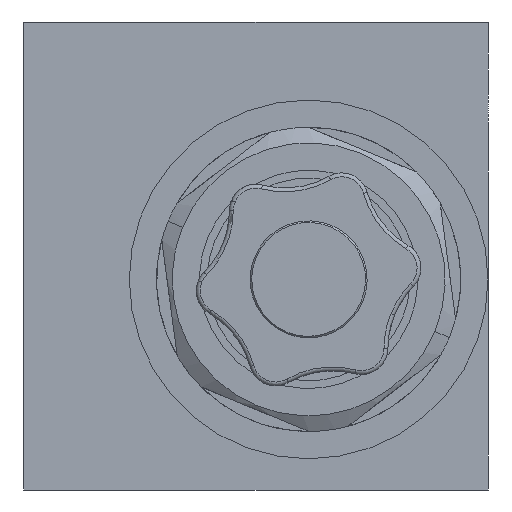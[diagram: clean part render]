
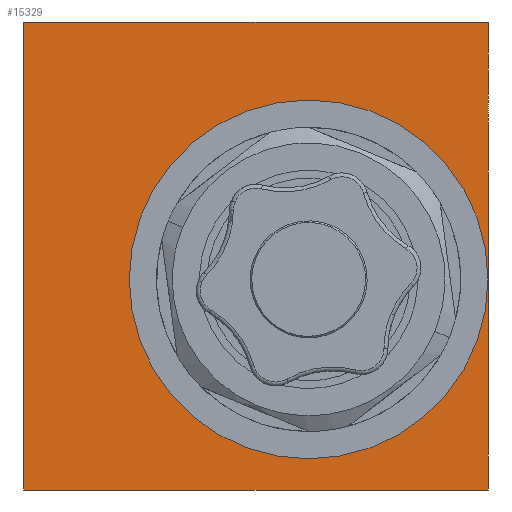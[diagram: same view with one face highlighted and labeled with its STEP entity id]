
A CAD part, left-side view. The second image highlights one B-rep face of the part: STEP entity #15329.
In plain terms, the highlighted planar face has unit normal (-1, 0, 0).
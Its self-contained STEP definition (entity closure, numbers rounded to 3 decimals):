
#46 = CIRCLE ( 'NONE', #3927, 23. ) ;
#91 = CARTESIAN_POINT ( 'NONE',  ( 0., -29.75, 30. ) ) ;
#113 = CARTESIAN_POINT ( 'NONE',  ( 0., -6.75, -26. ) ) ;
#355 = DIRECTION ( 'NONE',  ( 0., -1., 0. ) ) ;
#491 = DIRECTION ( 'NONE',  ( 0., 0., 1. ) ) ;
#1056 = EDGE_CURVE ( 'NONE', #6913, #8393, #15344, .T. ) ;
#1632 = EDGE_CURVE ( 'NONE', #10393, #6913, #13962, .T. ) ;
#1661 = VERTEX_POINT ( 'NONE', #113 ) ;
#2132 = EDGE_LOOP ( 'NONE', ( #2460, #2555 ) ) ;
#2141 = EDGE_CURVE ( 'NONE', #8393, #6571, #13021, .T. ) ;
#2301 = CARTESIAN_POINT ( 'NONE',  ( 0., 29.75, -30. ) ) ;
#2308 = EDGE_LOOP ( 'NONE', ( #2402, #2418, #2436, #2441 ) ) ;
#2402 = ORIENTED_EDGE ( 'NONE', *, *, #2141, .F. ) ;
#2418 = ORIENTED_EDGE ( 'NONE', *, *, #1056, .F. ) ;
#2436 = ORIENTED_EDGE ( 'NONE', *, *, #1632, .F. ) ;
#2441 = ORIENTED_EDGE ( 'NONE', *, *, #3328, .F. ) ;
#2452 = VERTEX_POINT ( 'NONE', #4451 ) ;
#2460 = ORIENTED_EDGE ( 'NONE', *, *, #13373, .F. ) ;
#2555 = ORIENTED_EDGE ( 'NONE', *, *, #16926, .F. ) ;
#2601 = CARTESIAN_POINT ( 'NONE',  ( 0., 29.75, 30. ) ) ;
#3328 = EDGE_CURVE ( 'NONE', #6571, #10393, #10679, .T. ) ;
#3927 = AXIS2_PLACEMENT_3D ( 'NONE', #13896, #8869, #13881 ) ;
#4451 = CARTESIAN_POINT ( 'NONE',  ( 0., -6.75, 20. ) ) ;
#5950 = CARTESIAN_POINT ( 'NONE',  ( 0., 29.75, -30. ) ) ;
#5977 = DIRECTION ( 'NONE',  ( 0., 0., 1. ) ) ;
#5998 = DIRECTION ( 'NONE',  ( -1., 0., 0. ) ) ;
#6146 = PLANE ( 'NONE',  #6483 ) ;
#6483 = AXIS2_PLACEMENT_3D ( 'NONE', #5950, #5998, #5977 ) ;
#6571 = VERTEX_POINT ( 'NONE', #2301 ) ;
#6913 = VERTEX_POINT ( 'NONE', #13919 ) ;
#8393 = VERTEX_POINT ( 'NONE', #16256 ) ;
#8869 = DIRECTION ( 'NONE',  ( -1., 0., 0. ) ) ;
#8938 = DIRECTION ( 'NONE',  ( 0., 0., 1. ) ) ;
#8954 = DIRECTION ( 'NONE',  ( -1., 0., 0. ) ) ;
#8974 = CARTESIAN_POINT ( 'NONE',  ( 0., -6.75, -3. ) ) ;
#9529 = DIRECTION ( 'NONE',  ( 0., 1., 0. ) ) ;
#10007 = CARTESIAN_POINT ( 'NONE',  ( 0., -29.75, 30. ) ) ;
#10061 = DIRECTION ( 'NONE',  ( 0., 0., -1. ) ) ;
#10393 = VERTEX_POINT ( 'NONE', #2601 ) ;
#10645 = VECTOR ( 'NONE', #491, 1000. ) ;
#10679 = LINE ( 'NONE', #15665, #10645 ) ;
#12718 = CARTESIAN_POINT ( 'NONE',  ( 0., -29.75, -30. ) ) ;
#12902 = VECTOR ( 'NONE', #9529, 1000. ) ;
#13021 = LINE ( 'NONE', #12718, #12902 ) ;
#13373 = EDGE_CURVE ( 'NONE', #2452, #1661, #14051, .T. ) ;
#13881 = DIRECTION ( 'NONE',  ( 0., 0., 1. ) ) ;
#13896 = CARTESIAN_POINT ( 'NONE',  ( 0., -6.75, -3. ) ) ;
#13919 = CARTESIAN_POINT ( 'NONE',  ( 0., -29.75, 30. ) ) ;
#13930 = VECTOR ( 'NONE', #355, 1000. ) ;
#13962 = LINE ( 'NONE', #91, #13930 ) ;
#14051 = CIRCLE ( 'NONE', #14775, 23. ) ;
#14775 = AXIS2_PLACEMENT_3D ( 'NONE', #8974, #8954, #8938 ) ;
#14922 = VECTOR ( 'NONE', #10061, 1000. ) ;
#15329 = ADVANCED_FACE ( 'NONE', ( #16436, #16465 ), #6146, .T. ) ;
#15344 = LINE ( 'NONE', #10007, #14922 ) ;
#15665 = CARTESIAN_POINT ( 'NONE',  ( 0., 29.75, 30. ) ) ;
#16256 = CARTESIAN_POINT ( 'NONE',  ( 0., -29.75, -30. ) ) ;
#16436 = FACE_OUTER_BOUND ( 'NONE', #2308, .T. ) ;
#16465 = FACE_BOUND ( 'NONE', #2132, .T. ) ;
#16926 = EDGE_CURVE ( 'NONE', #1661, #2452, #46, .T. ) ;
